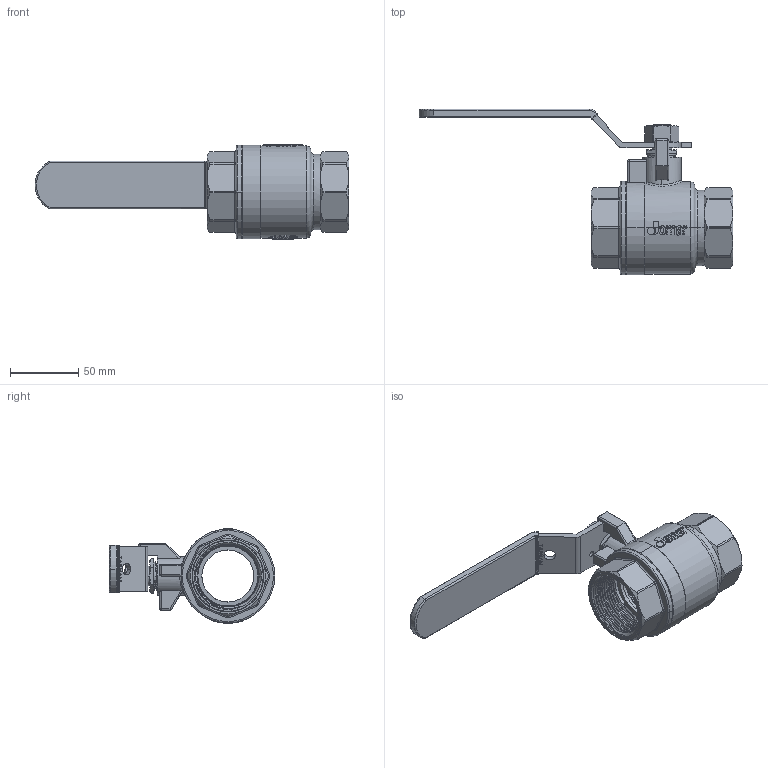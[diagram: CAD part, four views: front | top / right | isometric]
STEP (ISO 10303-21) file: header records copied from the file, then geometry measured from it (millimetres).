
FILE_DESCRIPTION (( 'STEP AP203' ), '1' );
FILE_NAME ('ABL727-µL±¾Âê-1.5''''JOMAR²y»ÖÅé²Õ¦X.STEP', '2026-04-13T02:32:42', ( '' ), ( '' ), 'SwSTEP 2.0', 'SolidWorks 2018', '' );
FILE_SCHEMA (( 'CONFIG_CONTROL_DESIGN' ));
Length unit declared in the file: millimetre
Products named in the file (13): GBL218; RBL267; EBL307; TBL268A; DN50-CBL238黃色膠套-T-200CSS; EBL208B; BBL727-1.5''''JOMAR球閥體-有鉛-端面插溝無LF; EBL208C; NBL268; BBL727A-1.5''''JOMAR球閥八角頭-有鉛端面插溝; ABL727-無掛鎖-1.5''''JOMAR球閥體組合; CBL238; DN40-DN50-CBL727-無掛鎖把手組合-黃色膠套 T-200CSS
Assembly tree (13 placements, depth 3):
  ABL727-無掛鎖-1.5''''JOMAR球閥體組合
    BBL727-1.5''''JOMAR球閥體-有鉛-端面插溝無LF
    RBL267
    EBL208C
    GBL218
    EBL208B
    TBL268A
    BBL727A-1.5''''JOMAR球閥八角頭-有鉛端面插溝
    NBL268
    EBL307  x2
    DN40-DN50-CBL727-無掛鎖把手組合-黃色膠套 T-200CSS
      CBL238
      DN50-CBL238黃色膠套-T-200CSS
Bounding box: 229.35 x 120.96 x 69 mm (x, y, z)
Volume: 215476.1 mm3; surface area: 121455.2 mm2
Topology: 12 solids, 12 shells, 1553 faces, 4104 edges, 2681 vertices
Faces by surface type: plane 606, bspline 478, cylinder 278, cone 143, torus 34, sphere 14
Entity records: 94735 total; most frequent: CARTESIAN_POINT 59342, ORIENTED_EDGE 8132, DIRECTION 5264, EDGE_CURVE 4066, VERTEX_POINT 2661, VECTOR 2040, LINE 2040, EDGE_LOOP 1679
